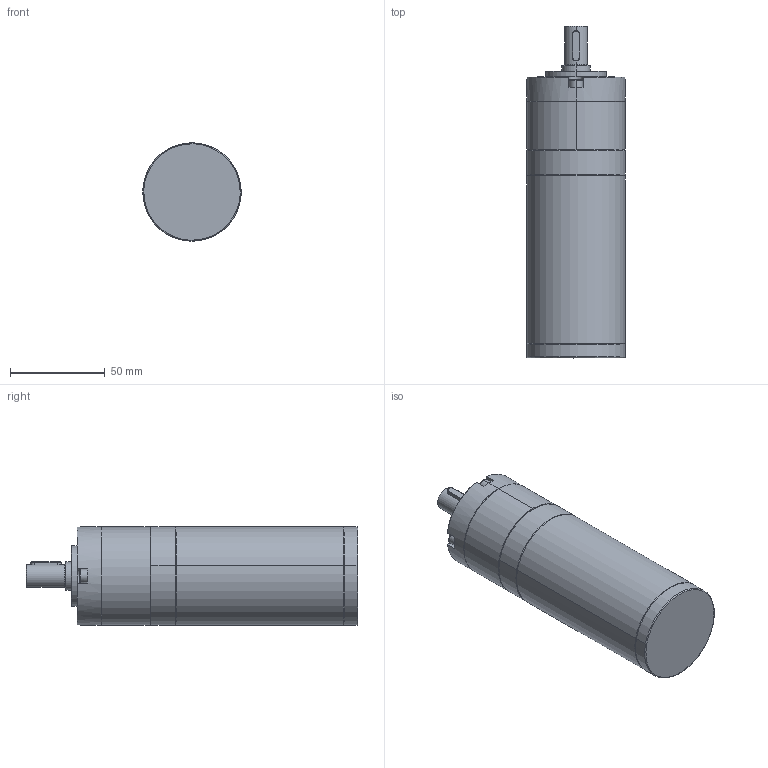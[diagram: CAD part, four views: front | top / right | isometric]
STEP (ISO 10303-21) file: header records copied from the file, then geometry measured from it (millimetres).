
FILE_DESCRIPTION (( 'STEP AP203' ), '1' );
FILE_NAME ('52BLD60W熬厒掀珨撰淕儂.STEP', '2021-07-16T02:58:28', ( '' ), ( '' ), 'SwSTEP 2.0', 'SolidWorks 2021', '' );
FILE_SCHEMA (( 'CONFIG_CONTROL_DESIGN' ));
Length unit declared in the file: millimetre
Products named in the file (3): 52BLD60W熬厒掀珨撰淕儂; 52PN珨撰; 52酗
Assembly tree (2 placements, depth 2):
  52BLD60W熬厒掀珨撰淕儂
    52PN珨撰
    52酗
Bounding box: 52 x 175.6 x 52 mm (x, y, z)
Volume: 315827.5 mm3; surface area: 35685 mm2
Topology: 2 solids, 2 shells, 162 faces, 378 edges, 225 vertices
Faces by surface type: plane 59, cone 46, cylinder 45, bspline 10, torus 2
Entity records: 5151 total; most frequent: CARTESIAN_POINT 1190, DIRECTION 806, ORIENTED_EDGE 736, EDGE_CURVE 368, AXIS2_PLACEMENT_3D 305, VERTEX_POINT 225, VECTOR 196, LINE 196
